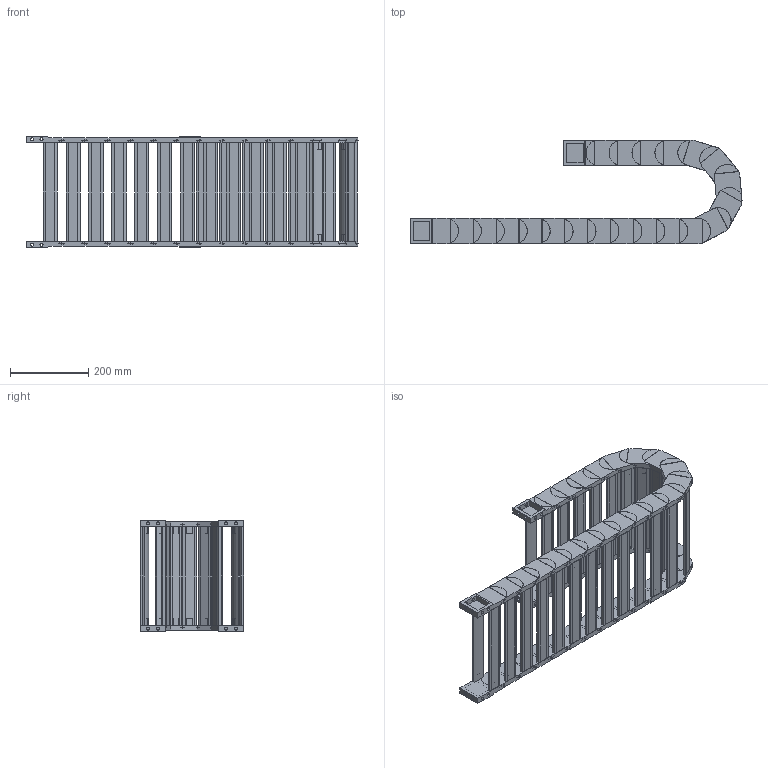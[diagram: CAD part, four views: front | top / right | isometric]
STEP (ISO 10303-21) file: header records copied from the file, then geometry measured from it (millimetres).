
FILE_DESCRIPTION((''),'2;1');
FILE_NAME('HD45-R100-ZPT_ASM','2022-06-20T20:43:55',('admin'),(''),'CREO PARAMETRIC BY PTC INC, 2021164','CREO PARAMETRIC BY PTC INC, 2021164','');
FILE_SCHEMA(('CONFIG_CONTROL_DESIGN','GEOMETRIC_VALIDATION_PROPERTIES_MIM'));
Length unit declared in the file: millimetre
Products named in the file (6): HD45-585; 45-500001; HD45_ASM; H45-T1-G; H45-T2-G; HD45-R100-ZPT_ASM
Assembly tree (26 placements, depth 3):
  HD45-R100-ZPT_ASM
    HD45_ASM  x20
      HD45-585
      45-500001
    H45-T1-G
    H45-T2-G
    45-500001  x2
Bounding box: 847.35 x 264.83 x 283.7 mm (x, y, z)
Volume: 5701587.3 mm3; surface area: 1833513.4 mm2
Topology: 88 solids, 88 shells, 1714 faces, 4586 edges, 3140 vertices
Faces by surface type: plane 1126, cylinder 588
Entity records: 8630 total; most frequent: CARTESIAN_POINT 1392, DIRECTION 1382, ORIENTED_EDGE 1276, EDGE_CURVE 638, AXIS2_PLACEMENT_3D 480, VERTEX_POINT 432, VECTOR 422, LINE 422
